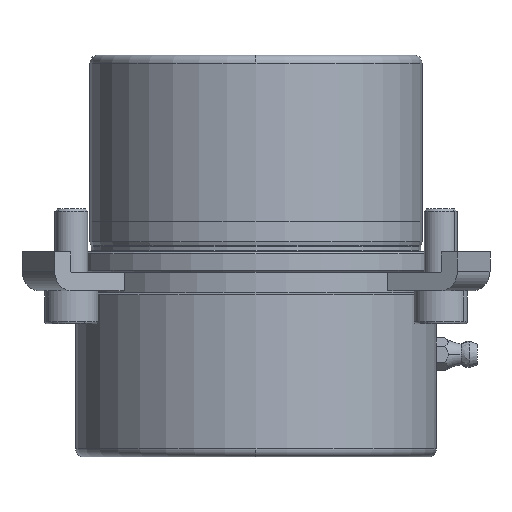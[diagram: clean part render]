
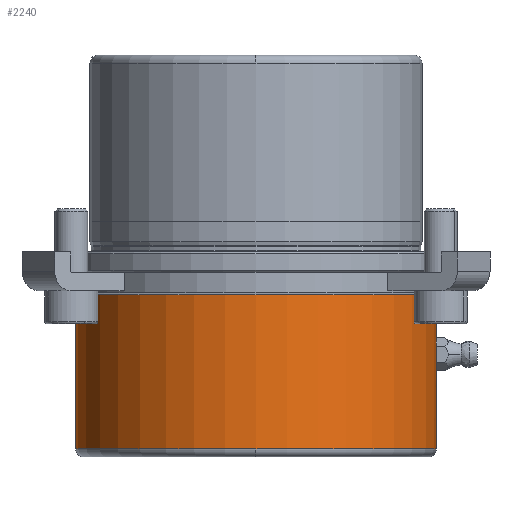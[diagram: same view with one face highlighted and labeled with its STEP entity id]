
A CAD part, front view. The second image highlights one B-rep face of the part: STEP entity #2240.
In plain terms, the highlighted cylindrical face has radius 44 mm (diameter 88 mm), a partial arc.
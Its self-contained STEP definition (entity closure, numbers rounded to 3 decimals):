
#604=CARTESIAN_POINT('',(0.,-44.,-48.0));
#605=VERTEX_POINT('',#604);
#613=CARTESIAN_POINT('',(-44.0,0.,-48.0));
#614=VERTEX_POINT('',#613);
#615=CARTESIAN_POINT('',(0.0,0.,-48.0));
#616=DIRECTION('',(0.0,0.0,-1.0));
#617=DIRECTION('',(1.0,0.0,0.0));
#618=AXIS2_PLACEMENT_3D('',#615,#616,#617);
#619=CIRCLE('',#618,44.0);
#620=EDGE_CURVE('',#605,#614,#619,.T.);
#637=CARTESIAN_POINT('',(44.0,0.,-48.0));
#638=VERTEX_POINT('',#637);
#639=CARTESIAN_POINT('',(44.0,0.,-27.5));
#640=VERTEX_POINT('',#639);
#641=CARTESIAN_POINT('',(44.0,0.,-48.0));
#642=DIRECTION('',(0.0,0.0,1.0));
#643=VECTOR('',#642,20.5);
#644=LINE('',#641,#643);
#645=EDGE_CURVE('',#638,#640,#644,.T.);
#655=CARTESIAN_POINT('',(-44.0,0.,-10.5));
#656=VERTEX_POINT('',#655);
#657=CARTESIAN_POINT('',(-44.0,0.,-48.0));
#658=DIRECTION('',(0.0,0.0,1.0));
#659=VECTOR('',#658,37.5);
#660=LINE('',#657,#659);
#661=EDGE_CURVE('',#614,#656,#660,.T.);
#663=CARTESIAN_POINT('',(44.0,0.,-10.5));
#664=VERTEX_POINT('',#663);
#672=CARTESIAN_POINT('',(44.0,0.,-22.5));
#673=VERTEX_POINT('',#672);
#674=CARTESIAN_POINT('',(44.0,0.,-22.5));
#675=DIRECTION('',(0.0,0.0,1.0));
#676=VECTOR('',#675,12.0);
#677=LINE('',#674,#676);
#678=EDGE_CURVE('',#673,#664,#677,.T.);
#1579=CARTESIAN_POINT('',(43.929,-2.5,-25.0));
#1580=VERTEX_POINT('',#1579);
#1581=CARTESIAN_POINT('',(43.929,-2.5,-25.0));
#1582=CARTESIAN_POINT('',(43.929,-2.5,-24.843));
#1583=CARTESIAN_POINT('',(43.93,-2.485,-24.681));
#1584=CARTESIAN_POINT('',(43.933,-2.422,-24.358));
#1585=CARTESIAN_POINT('',(43.936,-2.373,-24.197));
#1586=CARTESIAN_POINT('',(43.943,-2.246,-23.889));
#1587=CARTESIAN_POINT('',(43.947,-2.166,-23.742));
#1588=CARTESIAN_POINT('',(43.955,-1.983,-23.469));
#1589=CARTESIAN_POINT('',(43.96,-1.879,-23.343));
#1590=CARTESIAN_POINT('',(43.969,-1.657,-23.121));
#1591=CARTESIAN_POINT('',(43.974,-1.531,-23.017));
#1592=CARTESIAN_POINT('',(43.982,-1.258,-22.834));
#1593=CARTESIAN_POINT('',(43.986,-1.111,-22.754));
#1594=CARTESIAN_POINT('',(43.993,-0.803,-22.627));
#1595=CARTESIAN_POINT('',(43.996,-0.642,-22.578));
#1596=CARTESIAN_POINT('',(43.999,-0.319,-22.515));
#1597=CARTESIAN_POINT('',(44.0,-0.157,-22.5));
#1598=CARTESIAN_POINT('',(44.0,0.,-22.5));
#1599=B_SPLINE_CURVE_WITH_KNOTS('',3,(#1581,#1582,#1583,#1584,#1585,#1586,#1587,#1588,#1589,#1590,#1591,#1592,#1593,#1594,#1595,#1596,#1597,#1598),.UNSPECIFIED.,.F.,.U.,(4,2,2,2,2,2,2,2,4),(0.0,0.471,0.942,1.413,1.884,2.355,2.826,3.297,3.768),.UNSPECIFIED.);
#1600=EDGE_CURVE('',#1580,#673,#1599,.T.);
#1602=CARTESIAN_POINT('',(44.0,0.,-27.5));
#1603=CARTESIAN_POINT('',(44.0,-0.157,-27.5));
#1604=CARTESIAN_POINT('',(43.999,-0.319,-27.485));
#1605=CARTESIAN_POINT('',(43.996,-0.642,-27.422));
#1606=CARTESIAN_POINT('',(43.993,-0.803,-27.373));
#1607=CARTESIAN_POINT('',(43.986,-1.111,-27.246));
#1608=CARTESIAN_POINT('',(43.982,-1.258,-27.166));
#1609=CARTESIAN_POINT('',(43.974,-1.531,-26.983));
#1610=CARTESIAN_POINT('',(43.969,-1.657,-26.879));
#1611=CARTESIAN_POINT('',(43.96,-1.879,-26.657));
#1612=CARTESIAN_POINT('',(43.955,-1.983,-26.531));
#1613=CARTESIAN_POINT('',(43.947,-2.166,-26.258));
#1614=CARTESIAN_POINT('',(43.943,-2.246,-26.111));
#1615=CARTESIAN_POINT('',(43.936,-2.373,-25.803));
#1616=CARTESIAN_POINT('',(43.933,-2.422,-25.642));
#1617=CARTESIAN_POINT('',(43.93,-2.485,-25.319));
#1618=CARTESIAN_POINT('',(43.929,-2.5,-25.157));
#1619=CARTESIAN_POINT('',(43.929,-2.5,-25.0));
#1620=B_SPLINE_CURVE_WITH_KNOTS('',3,(#1602,#1603,#1604,#1605,#1606,#1607,#1608,#1609,#1610,#1611,#1612,#1613,#1614,#1615,#1616,#1617,#1618,#1619),.UNSPECIFIED.,.F.,.U.,(4,2,2,2,2,2,2,2,4),(11.303,11.774,12.245,12.716,13.187,13.658,14.129,14.6,15.071),.UNSPECIFIED.);
#1621=EDGE_CURVE('',#640,#1580,#1620,.T.);
#2209=CARTESIAN_POINT('',(0.0,0.,-10.5));
#2210=DIRECTION('',(0.0,0.0,-1.0));
#2211=DIRECTION('',(1.0,0.0,0.0));
#2212=AXIS2_PLACEMENT_3D('',#2209,#2210,#2211);
#2213=CIRCLE('',#2212,44.0);
#2214=EDGE_CURVE('',#664,#656,#2213,.T.);
#2219=CARTESIAN_POINT('',(0.0,0.,-29.25));
#2220=DIRECTION('',(0.0,0.,-1.0));
#2221=DIRECTION('',(1.0,0.0,0.0));
#2222=AXIS2_PLACEMENT_3D('',#2219,#2220,#2221);
#2223=CYLINDRICAL_SURFACE('',#2222,44.0);
#2224=ORIENTED_EDGE('',*,*,#645,.T.);
#2225=ORIENTED_EDGE('',*,*,#1621,.T.);
#2226=ORIENTED_EDGE('',*,*,#1600,.T.);
#2227=ORIENTED_EDGE('',*,*,#678,.T.);
#2228=ORIENTED_EDGE('',*,*,#2214,.T.);
#2229=ORIENTED_EDGE('',*,*,#661,.F.);
#2230=ORIENTED_EDGE('',*,*,#620,.F.);
#2231=CARTESIAN_POINT('',(0.0,0.,-48.0));
#2232=DIRECTION('',(0.0,0.0,-1.0));
#2233=DIRECTION('',(1.0,0.0,0.0));
#2234=AXIS2_PLACEMENT_3D('',#2231,#2232,#2233);
#2235=CIRCLE('',#2234,44.0);
#2236=EDGE_CURVE('',#638,#605,#2235,.T.);
#2237=ORIENTED_EDGE('',*,*,#2236,.F.);
#2238=EDGE_LOOP('',(#2224,#2225,#2226,#2227,#2228,#2229,#2230,#2237));
#2239=FACE_OUTER_BOUND('',#2238,.T.);
#2240=ADVANCED_FACE('',(#2239),#2223,.T.);
